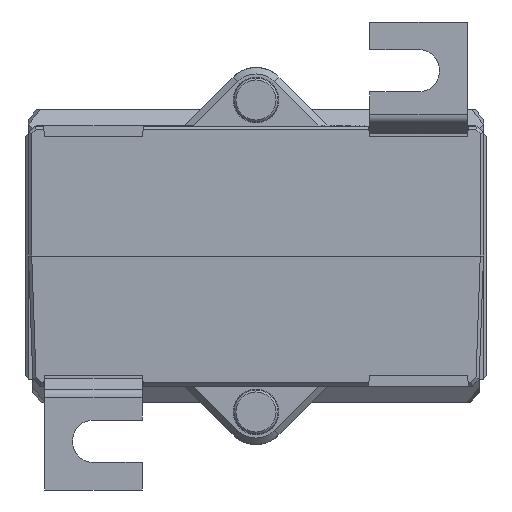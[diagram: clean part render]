
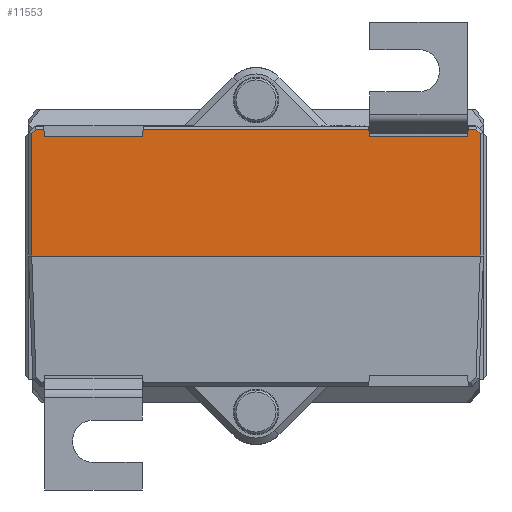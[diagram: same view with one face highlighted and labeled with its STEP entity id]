
A CAD part, front view. The second image highlights one B-rep face of the part: STEP entity #11553.
In plain terms, the highlighted planar face has unit normal (0, -1, 0).
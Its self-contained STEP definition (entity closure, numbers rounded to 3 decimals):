
#11411 = VERTEX_POINT ( 'NONE', #69931 ) ;
#11439 = VERTEX_POINT ( 'NONE', #69923 ) ;
#11457 = VERTEX_POINT ( 'NONE', #69994 ) ;
#11466 = VERTEX_POINT ( 'NONE', #70040 ) ;
#11478 = EDGE_CURVE ( 'NONE', #11557, #11605, #70039, .T. ) ;
#11529 = ORIENTED_EDGE ( 'NONE', *, *, #11609, .T. ) ;
#11533 = VERTEX_POINT ( 'NONE', #70096 ) ;
#11538 = ORIENTED_EDGE ( 'NONE', *, *, #33196, .T. ) ;
#11540 = EDGE_LOOP ( 'NONE', ( #11560, #11578, #11651, #11661, #11562, #11647, #11538, #11608, #11529, #11629, #11549, #11614, #11726, #11732 ) ) ;
#11546 = VERTEX_POINT ( 'NONE', #70084 ) ;
#11549 = ORIENTED_EDGE ( 'NONE', *, *, #11666, .F. ) ;
#11553 = ADVANCED_FACE ( 'NONE', ( #70082 ), #70052, .F. ) ;
#11557 = VERTEX_POINT ( 'NONE', #70128 ) ;
#11560 = ORIENTED_EDGE ( 'NONE', *, *, #11568, .F. ) ;
#11562 = ORIENTED_EDGE ( 'NONE', *, *, #11663, .T. ) ;
#11568 = EDGE_CURVE ( 'NONE', #11457, #11439, #70118, .T. ) ;
#11573 = VERTEX_POINT ( 'NONE', #70122 ) ;
#11578 = ORIENTED_EDGE ( 'NONE', *, *, #11579, .F. ) ;
#11579 = EDGE_CURVE ( 'NONE', #11605, #11457, #70129, .T. ) ;
#11605 = VERTEX_POINT ( 'NONE', #70153 ) ;
#11608 = ORIENTED_EDGE ( 'NONE', *, *, #11672, .T. ) ;
#11609 = EDGE_CURVE ( 'NONE', #11659, #11533, #70159, .T. ) ;
#11614 = ORIENTED_EDGE ( 'NONE', *, *, #11640, .T. ) ;
#11616 = EDGE_CURVE ( 'NONE', #11533, #11573, #70160, .T. ) ;
#11622 = EDGE_CURVE ( 'NONE', #11673, #11664, #70135, .T. ) ;
#11629 = ORIENTED_EDGE ( 'NONE', *, *, #11616, .T. ) ;
#11636 = EDGE_CURVE ( 'NONE', #11673, #11439, #69388, .T. ) ;
#11640 = EDGE_CURVE ( 'NONE', #11546, #11664, #70187, .T. ) ;
#11647 = ORIENTED_EDGE ( 'NONE', *, *, #11668, .T. ) ;
#11651 = ORIENTED_EDGE ( 'NONE', *, *, #11478, .F. ) ;
#11655 = EDGE_CURVE ( 'NONE', #11557, #11411, #70189, .T. ) ;
#11659 = VERTEX_POINT ( 'NONE', #70180 ) ;
#11661 = ORIENTED_EDGE ( 'NONE', *, *, #11655, .T. ) ;
#11663 = EDGE_CURVE ( 'NONE', #11411, #11466, #70217, .T. ) ;
#11664 = VERTEX_POINT ( 'NONE', #70221 ) ;
#11666 = EDGE_CURVE ( 'NONE', #11546, #11573, #70220, .T. ) ;
#11668 = EDGE_CURVE ( 'NONE', #11466, #33230, #70163, .T. ) ;
#11672 = EDGE_CURVE ( 'NONE', #33224, #11659, #70196, .T. ) ;
#11673 = VERTEX_POINT ( 'NONE', #70195 ) ;
#11726 = ORIENTED_EDGE ( 'NONE', *, *, #11622, .F. ) ;
#11732 = ORIENTED_EDGE ( 'NONE', *, *, #11636, .T. ) ;
#33196 = EDGE_CURVE ( 'NONE', #33230, #33224, #51399, .T. ) ;
#33224 = VERTEX_POINT ( 'NONE', #51427 ) ;
#33230 = VERTEX_POINT ( 'NONE', #51426 ) ;
#51348 = VECTOR ( 'NONE', #51383, 1000. ) ;
#51349 = CARTESIAN_POINT ( 'NONE',  ( -35., -36.75, 0. ) ) ;
#51383 = DIRECTION ( 'NONE',  ( 1., 0., 0. ) ) ;
#51399 = LINE ( 'NONE', #51349, #51348 ) ;
#51426 = CARTESIAN_POINT ( 'NONE',  ( -34.5, -36.75, 0. ) ) ;
#51427 = CARTESIAN_POINT ( 'NONE',  ( 34.5, -36.75, 0. ) ) ;
#69121 = VECTOR ( 'NONE', #69638, 1000. ) ;
#69388 = LINE ( 'NONE', #69394, #69121 ) ;
#69394 = CARTESIAN_POINT ( 'NONE',  ( -34., -36.75, 19.5 ) ) ;
#69638 = DIRECTION ( 'NONE',  ( -1., 0., 0. ) ) ;
#69923 = CARTESIAN_POINT ( 'NONE',  ( -17.382, -36.75, 19.5 ) ) ;
#69931 = CARTESIAN_POINT ( 'NONE',  ( -33.793, -36.75, 19.5 ) ) ;
#69994 = CARTESIAN_POINT ( 'NONE',  ( -17.392, -36.75, 18.4 ) ) ;
#70033 = DIRECTION ( 'NONE',  ( 0.009, 0., -1. ) ) ;
#70034 = VECTOR ( 'NONE', #70033, 1000. ) ;
#70035 = CARTESIAN_POINT ( 'NONE',  ( -32.622, -36.75, 20.021 ) ) ;
#70039 = LINE ( 'NONE', #70035, #70034 ) ;
#70040 = CARTESIAN_POINT ( 'NONE',  ( -34.5, -36.75, 18.793 ) ) ;
#70052 = PLANE ( 'NONE',  #70091 ) ;
#70078 = DIRECTION ( 'NONE',  ( 0., 1., 0. ) ) ;
#70079 = CARTESIAN_POINT ( 'NONE',  ( -35., -36.75, 20. ) ) ;
#70082 = FACE_OUTER_BOUND ( 'NONE', #11540, .T. ) ;
#70084 = CARTESIAN_POINT ( 'NONE',  ( 32.608, -36.75, 18.4 ) ) ;
#70091 = AXIS2_PLACEMENT_3D ( 'NONE', #70079, #70078, #70130 ) ;
#70096 = CARTESIAN_POINT ( 'NONE',  ( 33.793, -36.75, 19.5 ) ) ;
#70103 = DIRECTION ( 'NONE',  ( 1., 0., 0. ) ) ;
#70104 = VECTOR ( 'NONE', #70103, 1000. ) ;
#70105 = CARTESIAN_POINT ( 'NONE',  ( -35., -36.75, 18.4 ) ) ;
#70115 = DIRECTION ( 'NONE',  ( 0.009, 0., 1. ) ) ;
#70116 = VECTOR ( 'NONE', #70115, 1000. ) ;
#70117 = CARTESIAN_POINT ( 'NONE',  ( -17.379, -36.75, 19.846 ) ) ;
#70118 = LINE ( 'NONE', #70117, #70116 ) ;
#70122 = CARTESIAN_POINT ( 'NONE',  ( 32.618, -36.75, 19.5 ) ) ;
#70128 = CARTESIAN_POINT ( 'NONE',  ( -32.618, -36.75, 19.5 ) ) ;
#70129 = LINE ( 'NONE', #70105, #70104 ) ;
#70130 = DIRECTION ( 'NONE',  ( -1., 0., 0. ) ) ;
#70132 = DIRECTION ( 'NONE',  ( 0.009, 0., -1. ) ) ;
#70133 = VECTOR ( 'NONE', #70132, 1000. ) ;
#70134 = CARTESIAN_POINT ( 'NONE',  ( 17.374, -36.75, 20.457 ) ) ;
#70135 = LINE ( 'NONE', #70134, #70133 ) ;
#70137 = DIRECTION ( 'NONE',  ( -1., 0., 0. ) ) ;
#70141 = VECTOR ( 'NONE', #70137, 1000. ) ;
#70142 = CARTESIAN_POINT ( 'NONE',  ( -34., -36.75, 19.5 ) ) ;
#70143 = DIRECTION ( 'NONE',  ( -0.707, 0., 0.707 ) ) ;
#70144 = VECTOR ( 'NONE', #70143, 1000. ) ;
#70145 = CARTESIAN_POINT ( 'NONE',  ( 33.646, -36.75, 19.646 ) ) ;
#70153 = CARTESIAN_POINT ( 'NONE',  ( -32.608, -36.75, 18.4 ) ) ;
#70159 = LINE ( 'NONE', #70145, #70144 ) ;
#70160 = LINE ( 'NONE', #70142, #70141 ) ;
#70163 = LINE ( 'NONE', #70202, #70201 ) ;
#70166 = DIRECTION ( 'NONE',  ( -1., 0., 0. ) ) ;
#70167 = VECTOR ( 'NONE', #70166, 1000. ) ;
#70168 = CARTESIAN_POINT ( 'NONE',  ( -34., -36.75, 19.5 ) ) ;
#70175 = DIRECTION ( 'NONE',  ( -1., 0., 0. ) ) ;
#70176 = VECTOR ( 'NONE', #70175, 1000. ) ;
#70180 = CARTESIAN_POINT ( 'NONE',  ( 34.5, -36.75, 18.793 ) ) ;
#70181 = CARTESIAN_POINT ( 'NONE',  ( -35., -36.75, 18.4 ) ) ;
#70187 = LINE ( 'NONE', #70181, #70176 ) ;
#70189 = LINE ( 'NONE', #70168, #70167 ) ;
#70192 = DIRECTION ( 'NONE',  ( 0., 0., 1. ) ) ;
#70193 = VECTOR ( 'NONE', #70192, 1000. ) ;
#70194 = CARTESIAN_POINT ( 'NONE',  ( 34.5, -36.75, 20. ) ) ;
#70195 = CARTESIAN_POINT ( 'NONE',  ( 17.382, -36.75, 19.5 ) ) ;
#70196 = LINE ( 'NONE', #70194, #70193 ) ;
#70200 = DIRECTION ( 'NONE',  ( 0., 0., -1. ) ) ;
#70201 = VECTOR ( 'NONE', #70200, 1000. ) ;
#70202 = CARTESIAN_POINT ( 'NONE',  ( -34.5, -36.75, 20. ) ) ;
#70205 = DIRECTION ( 'NONE',  ( 0.009, 0., 1. ) ) ;
#70206 = VECTOR ( 'NONE', #70205, 1000. ) ;
#70207 = CARTESIAN_POINT ( 'NONE',  ( 32.617, -36.75, 19.41 ) ) ;
#70213 = DIRECTION ( 'NONE',  ( -0.707, 0., -0.707 ) ) ;
#70214 = VECTOR ( 'NONE', #70213, 1000. ) ;
#70216 = CARTESIAN_POINT ( 'NONE',  ( -34.646, -36.75, 18.646 ) ) ;
#70217 = LINE ( 'NONE', #70216, #70214 ) ;
#70220 = LINE ( 'NONE', #70207, #70206 ) ;
#70221 = CARTESIAN_POINT ( 'NONE',  ( 17.392, -36.75, 18.4 ) ) ;
